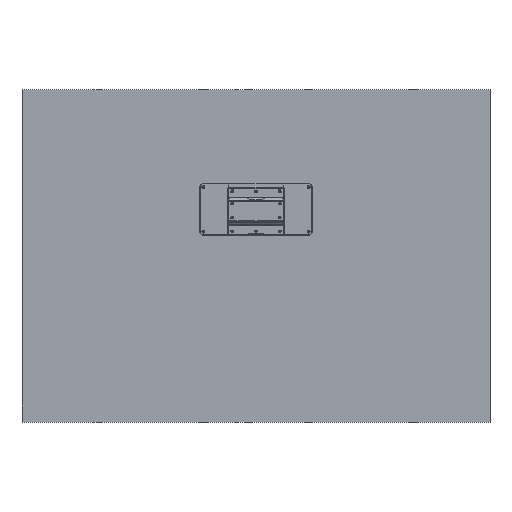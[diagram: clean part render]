
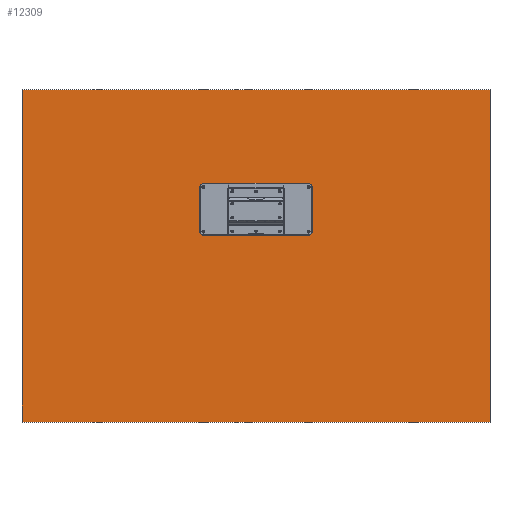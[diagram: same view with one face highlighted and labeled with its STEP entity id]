
A CAD part, top view. The second image highlights one B-rep face of the part: STEP entity #12309.
In plain terms, the highlighted planar face has unit normal (0, 0, 1).
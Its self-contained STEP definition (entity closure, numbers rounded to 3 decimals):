
#335 = LINE ( 'NONE', #10673, #10607 ) ;
#751 = DIRECTION ( 'NONE',  ( -1., 0., 0. ) ) ;
#951 = VERTEX_POINT ( 'NONE', #18620 ) ;
#955 = EDGE_CURVE ( 'NONE', #15428, #5487, #10991, .T. ) ;
#1124 = VECTOR ( 'NONE', #17076, 1000. ) ;
#2005 = ORIENTED_EDGE ( 'NONE', *, *, #5410, .T. ) ;
#2210 = LINE ( 'NONE', #3477, #7160 ) ;
#2446 = ORIENTED_EDGE ( 'NONE', *, *, #4504, .F. ) ;
#3477 = CARTESIAN_POINT ( 'NONE',  ( 1000., 400., -19. ) ) ;
#3769 = DIRECTION ( 'NONE',  ( 0., -1., 0. ) ) ;
#3882 = ORIENTED_EDGE ( 'NONE', *, *, #18067, .T. ) ;
#4504 = EDGE_CURVE ( 'NONE', #5487, #7786, #335, .T. ) ;
#5113 = EDGE_LOOP ( 'NONE', ( #2005, #2446, #6149, #3882 ) ) ;
#5331 = LINE ( 'NONE', #13980, #1124 ) ;
#5410 = EDGE_CURVE ( 'NONE', #951, #7786, #5331, .T. ) ;
#5487 = VERTEX_POINT ( 'NONE', #13008 ) ;
#6149 = ORIENTED_EDGE ( 'NONE', *, *, #955, .F. ) ;
#7160 = VECTOR ( 'NONE', #751, 1000. ) ;
#7368 = AXIS2_PLACEMENT_3D ( 'NONE', #15413, #9441, #12624 ) ;
#7786 = VERTEX_POINT ( 'NONE', #8404 ) ;
#7865 = DIRECTION ( 'NONE',  ( -1., 0., 0. ) ) ;
#8404 = CARTESIAN_POINT ( 'NONE',  ( -1000., -1019., -19. ) ) ;
#9441 = DIRECTION ( 'NONE',  ( 0., 0., -1. ) ) ;
#9520 = CARTESIAN_POINT ( 'NONE',  ( 1000., 400., -19. ) ) ;
#10041 = CARTESIAN_POINT ( 'NONE',  ( 1000., 400., -19. ) ) ;
#10607 = VECTOR ( 'NONE', #7865, 1000. ) ;
#10673 = CARTESIAN_POINT ( 'NONE',  ( 1000., -1019., -19. ) ) ;
#10991 = LINE ( 'NONE', #9520, #16723 ) ;
#12309 = ADVANCED_FACE ( 'NONE', ( #13861 ), #12440, .F. ) ;
#12440 = PLANE ( 'NONE',  #7368 ) ;
#12624 = DIRECTION ( 'NONE',  ( 0., 1., 0. ) ) ;
#13008 = CARTESIAN_POINT ( 'NONE',  ( 1000., -1019., -19. ) ) ;
#13861 = FACE_OUTER_BOUND ( 'NONE', #5113, .T. ) ;
#13980 = CARTESIAN_POINT ( 'NONE',  ( -1000., 400., -19. ) ) ;
#15413 = CARTESIAN_POINT ( 'NONE',  ( 1000., 400., -19. ) ) ;
#15428 = VERTEX_POINT ( 'NONE', #10041 ) ;
#16723 = VECTOR ( 'NONE', #3769, 1000. ) ;
#17076 = DIRECTION ( 'NONE',  ( 0., -1., 0. ) ) ;
#18067 = EDGE_CURVE ( 'NONE', #15428, #951, #2210, .T. ) ;
#18620 = CARTESIAN_POINT ( 'NONE',  ( -1000., 400., -19. ) ) ;
